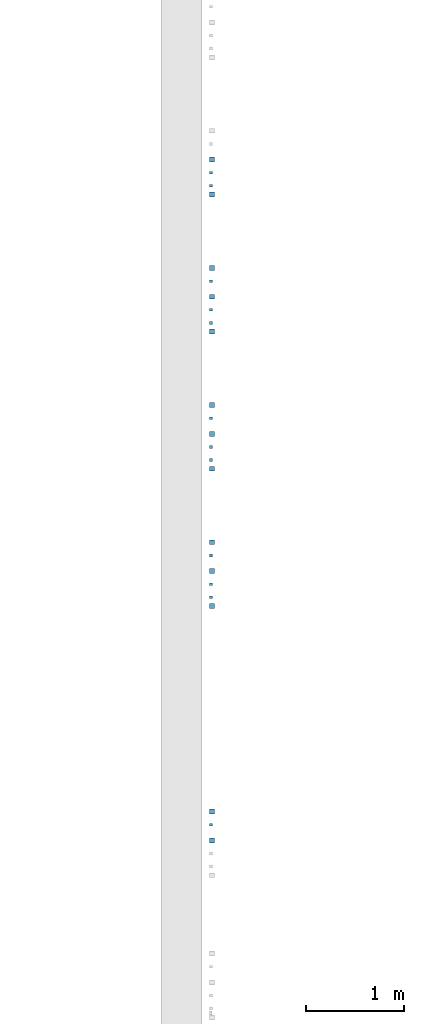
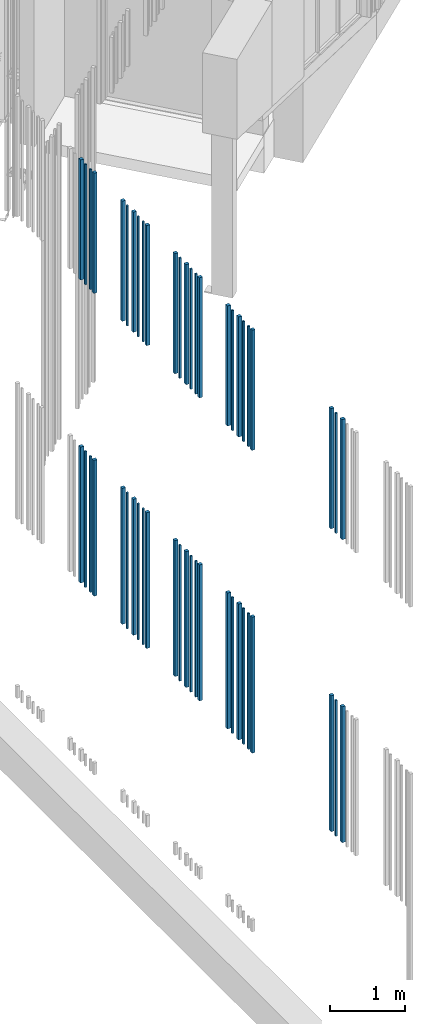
# One storey, part 24 of 124: 50 walls.
"""IFC2X3 building model written with IfcOpenShell, lengths in millimetres."""

from ifc_helpers import new_model, entity, si_unit, converted_unit, derived_unit, money_unit, direction, frame, origin_with_axes, place, context, subcontext, project, spatial, faceted_brep, material, type_object, element, save


model = new_model("IFC2X3")

# Units and contexts
model_context = context("Model", 3, precision=1e-05, world=origin_with_axes(), true_north=direction((0.0, 1.0)))
body_context = subcontext(model_context, "Body", "Model", "MODEL_VIEW")
ifc_project = project(units=[si_unit("LENGTHUNIT", "METRE", prefix="MILLI"), si_unit("AREAUNIT", "SQUARE_METRE"), si_unit("VOLUMEUNIT", "CUBIC_METRE"), converted_unit("PLANEANGLEUNIT", "DEGREE", entity("IfcPlaneAngleMeasure", 0.0174532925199), si_unit("PLANEANGLEUNIT", "RADIAN"), dimensions=[0, 0, 0, 0, 0, 0, 0]), si_unit("SOLIDANGLEUNIT", "STERADIAN"), money_unit("EUR"), converted_unit("TIMEUNIT", "Year", entity("IfcTimeMeasure", 31556926.0), si_unit("TIMEUNIT", "SECOND"), dimensions=[0, 0, 1, 0, 0, 0, 0]), si_unit("MASSUNIT", "GRAM", prefix="KILO"), si_unit("THERMODYNAMICTEMPERATUREUNIT", "DEGREE_CELSIUS"), si_unit("LUMINOUSINTENSITYUNIT", "LUMEN"), si_unit("ENERGYUNIT", "JOULE", prefix="MEGA"), derived_unit("THERMALCONDUCTANCEUNIT", [(si_unit("POWERUNIT", "WATT"), 1), (si_unit("LENGTHUNIT", "METRE"), -1), (si_unit("THERMODYNAMICTEMPERATUREUNIT", "KELVIN"), -1)]), derived_unit("SPECIFICHEATCAPACITYUNIT", [(si_unit("ENERGYUNIT", "JOULE"), 1), (si_unit("MASSUNIT", "GRAM", prefix="KILO"), -1), (si_unit("THERMODYNAMICTEMPERATUREUNIT", "KELVIN"), -1)]), derived_unit("MASSDENSITYUNIT", [(si_unit("MASSUNIT", "GRAM", prefix="KILO"), 1), (si_unit("VOLUMEUNIT", "CUBIC_METRE"), -1)])], contexts=[model_context])

# Site, building, storey
site_placement = place(None, origin_with_axes())
site = spatial("IfcSite", under=ifc_project, at=site_placement, Name="Site", CompositionType="ELEMENT")
building_placement = place(site_placement, origin_with_axes())
building = spatial("IfcBuilding", under=site, at=building_placement, Name="Building", CompositionType="ELEMENT")
storey_placement = place(building_placement, frame((0.0, 0.0, -1615.0), z_axis=(0.0, 0.0, 1.0), x_axis=(1.0, 0.0, 0.0)))
storey = spatial("IfcBuildingStorey", under=building, at=storey_placement, Name="0  korrus", CompositionType="ELEMENT", Elevation=-1615.0)

# Walls
ifc_material = material(Name="Site specified")
wall_type = type_object("IfcWallType", Name="Puitfassaadi ribistik", PredefinedType="NOTDEFINED")
wall_1_placement = place(storey_placement, frame((139811.999995, 55924.8062666, 4615.0), z_axis=(0.0, 0.0, 1.0), x_axis=(5.16795808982e-08, -1.0, 0.0)))
element("IfcWall", 1, at=wall_1_placement, inside=storey, type_object=wall_type, material=ifc_material, Name="Site specified", context=body_context, shape_type="Brep", body=[
    faceted_brep([(25.0, 25.0, 2206.0), (25.0, 25.0, 0.0), (-25.0, 25.0, 0.0), (-25.0, 25.0, 2206.0), (25.0, -25.0, 2206.0), (25.0, -25.0, 0.0), (-25.0, -25.0, 0.0), (-25.0, -25.0, 2206.0)], [[[0, 1, 2, 3]], [[4, 5, 1, 0]], [[2, 1, 5, 6]], [[3, 2, 6, 7]], [[4, 0, 3, 7]], [[7, 6, 5, 4]]]),
])
wall_2_placement = place(storey_placement, frame((139801.000002, 55789.8037755, 4615.0), z_axis=(0.0, 0.0, 1.0), x_axis=(5.16795808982e-08, -1.0, 0.0)))
element("IfcWall", 2, at=wall_2_placement, inside=storey, type_object=wall_type, material=ifc_material, Name="Site specified", context=body_context, shape_type="Brep", body=[
    faceted_brep([(14.0, 14.0, 2206.0), (14.0, 14.0, 0.0), (-14.0, 14.0, 0.0), (-14.0, 14.0, 2206.0), (14.0, -14.0, 2206.0), (14.0, -14.0, 0.0), (-14.0, -14.0, 0.0), (-14.0, -14.0, 2206.0)], [[[0, 1, 2, 3]], [[4, 5, 1, 0]], [[2, 1, 5, 6]], [[3, 2, 6, 7]], [[4, 0, 3, 7]], [[7, 6, 5, 4]]]),
])
wall_3_placement = place(storey_placement, frame((139812.000011, 55630.8062688, 4615.0), z_axis=(0.0, 0.0, 1.0), x_axis=(5.16795808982e-08, -1.0, 0.0)))
element("IfcWall", 3, at=wall_3_placement, inside=storey, type_object=wall_type, material=ifc_material, Name="Site specified", context=body_context, shape_type="Brep", body=[
    faceted_brep([(25.0, 25.0, 2206.0), (25.0, 25.0, 0.0), (-25.0, 25.0, 0.0), (-25.0, 25.0, 2206.0), (25.0, -25.0, 2206.0), (25.0, -25.0, 0.0), (-25.0, -25.0, 0.0), (-25.0, -25.0, 2206.0)], [[[0, 1, 2, 3]], [[4, 5, 1, 0]], [[2, 1, 5, 6]], [[3, 2, 6, 7]], [[4, 0, 3, 7]], [[7, 6, 5, 4]]]),
])
wall_4_placement = place(storey_placement, frame((139811.999995, 55924.8062666, 9530.0), z_axis=(0.0, 0.0, 1.0), x_axis=(5.16795808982e-08, -1.0, 0.0)))
element("IfcWall", 4, at=wall_4_placement, inside=storey, type_object=wall_type, material=ifc_material, Name="Site specified", context=body_context, shape_type="Brep", body=[
    faceted_brep([(25.0, 25.0, 1950.0), (25.0, 25.0, 0.0), (-25.0, 25.0, 0.0), (-25.0, 25.0, 1950.0), (25.0, -25.0, 1950.0), (25.0, -25.0, 0.0), (-25.0, -25.0, 0.0), (-25.0, -25.0, 1950.0)], [[[0, 1, 2, 3]], [[4, 5, 1, 0]], [[2, 1, 5, 6]], [[3, 2, 6, 7]], [[4, 0, 3, 7]], [[7, 6, 5, 4]]]),
])
for number, where, z_axis, x_axis, name in (
    (5, (139801.000002, 55789.8037755, 9530.0), (0.0, 0.0, 1.0), (5.16795808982e-08, -1.0, 0.0), "Site specified"),
    (6, (139801.000024, 59513.9793426, 9530.0), (0.0, 0.0, 1.0), (5.16795808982e-08, -1.0, 0.0), "Site specified"),
):
    element("IfcWall", number, at=place(storey_placement, frame(where, z_axis=z_axis, x_axis=x_axis)), inside=storey, type_object=wall_type, material=ifc_material, Name=name, context=body_context, shape_type="Brep", body=[
        faceted_brep([(14.0, 14.0, 1950.0), (14.0, 14.0, 0.0), (-14.0, 14.0, 0.0), (-14.0, 14.0, 1950.0), (14.0, -14.0, 1950.0), (14.0, -14.0, 0.0), (-14.0, -14.0, 0.0), (-14.0, -14.0, 1950.0)], [[[0, 1, 2, 3]], [[4, 5, 1, 0]], [[2, 1, 5, 6]], [[3, 2, 6, 7]], [[4, 0, 3, 7]], [[7, 6, 5, 4]]]),
    ])
wall_5_placement = place(storey_placement, frame((139812.000011, 55630.8062688, 9530.0), z_axis=(0.0, 0.0, 1.0), x_axis=(5.16795808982e-08, -1.0, 0.0)))
element("IfcWall", 7, at=wall_5_placement, inside=storey, type_object=wall_type, material=ifc_material, Name="Site specified", context=body_context, shape_type="Brep", body=[
    faceted_brep([(25.0, 25.0, 1950.0), (25.0, 25.0, 0.0), (-25.0, 25.0, 0.0), (-25.0, 25.0, 1950.0), (25.0, -25.0, 1950.0), (25.0, -25.0, 0.0), (-25.0, -25.0, 0.0), (-25.0, -25.0, 1950.0)], [[[0, 1, 2, 3]], [[4, 5, 1, 0]], [[2, 1, 5, 6]], [[3, 2, 6, 7]], [[4, 0, 3, 7]], [[7, 6, 5, 4]]]),
])
wall_6_placement = place(storey_placement, frame((139811.999995, 58674.9818039, 4615.0), z_axis=(0.0, 0.0, 1.0), x_axis=(5.16795808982e-08, -1.0, 0.0)))
element("IfcWall", 8, at=wall_6_placement, inside=storey, type_object=wall_type, material=ifc_material, Name="Site specified", context=body_context, shape_type="Brep", body=[
    faceted_brep([(25.0, 25.0, 2206.0), (25.0, 25.0, 0.0), (-25.0, 25.0, 0.0), (-25.0, 25.0, 2206.0), (25.0, -25.0, 2206.0), (25.0, -25.0, 0.0), (-25.0, -25.0, 0.0), (-25.0, -25.0, 2206.0)], [[[0, 1, 2, 3]], [[4, 5, 1, 0]], [[2, 1, 5, 6]], [[3, 2, 6, 7]], [[4, 0, 3, 7]], [[7, 6, 5, 4]]]),
])
for number, where, z_axis, x_axis, name in (
    (9, (139801.000002, 58539.9793129, 4615.0), (0.0, 0.0, 1.0), (5.16795808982e-08, -1.0, 0.0), "Site specified"),
    (10, (139801.000024, 58113.9793426, 4615.0), (0.0, 0.0, 1.0), (5.16795808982e-08, -1.0, 0.0), "Site specified"),
    (11, (139801.000017, 58246.9793417, 4615.0), (0.0, 0.0, 1.0), (5.16795808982e-08, -1.0, 0.0), "Site specified"),
):
    element("IfcWall", number, at=place(storey_placement, frame(where, z_axis=z_axis, x_axis=x_axis)), inside=storey, type_object=wall_type, material=ifc_material, Name=name, context=body_context, shape_type="Brep", body=[
        faceted_brep([(14.0, 14.0, 2206.0), (14.0, 14.0, 0.0), (-14.0, 14.0, 0.0), (-14.0, 14.0, 2206.0), (14.0, -14.0, 2206.0), (14.0, -14.0, 0.0), (-14.0, -14.0, 0.0), (-14.0, -14.0, 2206.0)], [[[0, 1, 2, 3]], [[4, 5, 1, 0]], [[2, 1, 5, 6]], [[3, 2, 6, 7]], [[4, 0, 3, 7]], [[7, 6, 5, 4]]]),
    ])
for number, where, z_axis, x_axis, name in (
    (12, (139812.000029, 58024.9761727, 4615.0), (0.0, 0.0, 1.0), (5.16795808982e-08, -1.0, 0.0), "Site specified"),
    (13, (139812.00001, 58380.9818061, 4615.0), (0.0, 0.0, 1.0), (5.16795808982e-08, -1.0, 0.0), "Site specified"),
):
    element("IfcWall", number, at=place(storey_placement, frame(where, z_axis=z_axis, x_axis=x_axis)), inside=storey, type_object=wall_type, material=ifc_material, Name=name, context=body_context, shape_type="Brep", body=[
        faceted_brep([(25.0, 25.0, 2206.0), (25.0, 25.0, 0.0), (-25.0, 25.0, 0.0), (-25.0, 25.0, 2206.0), (25.0, -25.0, 2206.0), (25.0, -25.0, 0.0), (-25.0, -25.0, 0.0), (-25.0, -25.0, 2206.0)], [[[0, 1, 2, 3]], [[4, 5, 1, 0]], [[2, 1, 5, 6]], [[3, 2, 6, 7]], [[4, 0, 3, 7]], [[7, 6, 5, 4]]]),
    ])
wall_7_placement = place(storey_placement, frame((139811.999995, 58674.9818039, 9530.0), z_axis=(0.0, 0.0, 1.0), x_axis=(5.16795808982e-08, -1.0, 0.0)))
element("IfcWall", 14, at=wall_7_placement, inside=storey, type_object=wall_type, material=ifc_material, Name="Site specified", context=body_context, shape_type="Brep", body=[
    faceted_brep([(25.0, 25.0, 1950.0), (25.0, 25.0, 0.0), (-25.0, 25.0, 0.0), (-25.0, 25.0, 1950.0), (25.0, -25.0, 1950.0), (25.0, -25.0, 0.0), (-25.0, -25.0, 0.0), (-25.0, -25.0, 1950.0)], [[[0, 1, 2, 3]], [[4, 5, 1, 0]], [[2, 1, 5, 6]], [[3, 2, 6, 7]], [[4, 0, 3, 7]], [[7, 6, 5, 4]]]),
])
for number, where, z_axis, x_axis, name in (
    (15, (139801.000002, 58539.9793129, 9530.0), (0.0, 0.0, 1.0), (5.16795808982e-08, -1.0, 0.0), "Site specified"),
    (16, (139801.000024, 58113.9793426, 9530.0), (0.0, 0.0, 1.0), (5.16795808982e-08, -1.0, 0.0), "Site specified"),
    (17, (139801.000017, 58246.9793417, 9530.0), (0.0, 0.0, 1.0), (5.16795808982e-08, -1.0, 0.0), "Site specified"),
):
    element("IfcWall", number, at=place(storey_placement, frame(where, z_axis=z_axis, x_axis=x_axis)), inside=storey, type_object=wall_type, material=ifc_material, Name=name, context=body_context, shape_type="Brep", body=[
        faceted_brep([(14.0, 14.0, 1950.0), (14.0, 14.0, 0.0), (-14.0, 14.0, 0.0), (-14.0, 14.0, 1950.0), (14.0, -14.0, 1950.0), (14.0, -14.0, 0.0), (-14.0, -14.0, 0.0), (-14.0, -14.0, 1950.0)], [[[0, 1, 2, 3]], [[4, 5, 1, 0]], [[2, 1, 5, 6]], [[3, 2, 6, 7]], [[4, 0, 3, 7]], [[7, 6, 5, 4]]]),
    ])
for number, where, z_axis, x_axis, name in (
    (18, (139812.000029, 58024.9761727, 9530.0), (0.0, 0.0, 1.0), (5.16795808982e-08, -1.0, 0.0), "Site specified"),
    (19, (139812.00001, 58380.9818061, 9530.0), (0.0, 0.0, 1.0), (5.16795808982e-08, -1.0, 0.0), "Site specified"),
):
    element("IfcWall", number, at=place(storey_placement, frame(where, z_axis=z_axis, x_axis=x_axis)), inside=storey, type_object=wall_type, material=ifc_material, Name=name, context=body_context, shape_type="Brep", body=[
        faceted_brep([(25.0, 25.0, 1950.0), (25.0, 25.0, 0.0), (-25.0, 25.0, 0.0), (-25.0, 25.0, 1950.0), (25.0, -25.0, 1950.0), (25.0, -25.0, 0.0), (-25.0, -25.0, 0.0), (-25.0, -25.0, 1950.0)], [[[0, 1, 2, 3]], [[4, 5, 1, 0]], [[2, 1, 5, 6]], [[3, 2, 6, 7]], [[4, 0, 3, 7]], [[7, 6, 5, 4]]]),
    ])
wall_8_placement = place(storey_placement, frame((139811.999995, 60074.9818039, 4615.0), z_axis=(0.0, 0.0, 1.0), x_axis=(5.16795808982e-08, -1.0, 0.0)))
element("IfcWall", 20, at=wall_8_placement, inside=storey, type_object=wall_type, material=ifc_material, Name="Site specified", context=body_context, shape_type="Brep", body=[
    faceted_brep([(25.0, 25.0, 2206.0), (25.0, 25.0, 0.0), (-25.0, 25.0, 0.0), (-25.0, 25.0, 2206.0), (25.0, -25.0, 2206.0), (25.0, -25.0, 0.0), (-25.0, -25.0, 0.0), (-25.0, -25.0, 2206.0)], [[[0, 1, 2, 3]], [[4, 5, 1, 0]], [[2, 1, 5, 6]], [[3, 2, 6, 7]], [[4, 0, 3, 7]], [[7, 6, 5, 4]]]),
])
for number, where, z_axis, x_axis, name in (
    (21, (139801.000002, 59939.9793129, 4615.0), (0.0, 0.0, 1.0), (5.16795808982e-08, -1.0, 0.0), "Site specified"),
    (22, (139801.000024, 59513.9793426, 4615.0), (0.0, 0.0, 1.0), (5.16795808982e-08, -1.0, 0.0), "Site specified"),
    (23, (139801.000017, 59646.9793417, 4615.0), (0.0, 0.0, 1.0), (5.16795808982e-08, -1.0, 0.0), "Site specified"),
):
    element("IfcWall", number, at=place(storey_placement, frame(where, z_axis=z_axis, x_axis=x_axis)), inside=storey, type_object=wall_type, material=ifc_material, Name=name, context=body_context, shape_type="Brep", body=[
        faceted_brep([(14.0, 14.0, 2206.0), (14.0, 14.0, 0.0), (-14.0, 14.0, 0.0), (-14.0, 14.0, 2206.0), (14.0, -14.0, 2206.0), (14.0, -14.0, 0.0), (-14.0, -14.0, 0.0), (-14.0, -14.0, 2206.0)], [[[0, 1, 2, 3]], [[4, 5, 1, 0]], [[2, 1, 5, 6]], [[3, 2, 6, 7]], [[4, 0, 3, 7]], [[7, 6, 5, 4]]]),
    ])
for number, where, z_axis, x_axis, name in (
    (24, (139812.000029, 59424.9761727, 4615.0), (0.0, 0.0, 1.0), (5.16795808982e-08, -1.0, 0.0), "Site specified"),
    (25, (139812.00001, 59780.9818061, 4615.0), (0.0, 0.0, 1.0), (5.16795808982e-08, -1.0, 0.0), "Site specified"),
):
    element("IfcWall", number, at=place(storey_placement, frame(where, z_axis=z_axis, x_axis=x_axis)), inside=storey, type_object=wall_type, material=ifc_material, Name=name, context=body_context, shape_type="Brep", body=[
        faceted_brep([(25.0, 25.0, 2206.0), (25.0, 25.0, 0.0), (-25.0, 25.0, 0.0), (-25.0, 25.0, 2206.0), (25.0, -25.0, 2206.0), (25.0, -25.0, 0.0), (-25.0, -25.0, 0.0), (-25.0, -25.0, 2206.0)], [[[0, 1, 2, 3]], [[4, 5, 1, 0]], [[2, 1, 5, 6]], [[3, 2, 6, 7]], [[4, 0, 3, 7]], [[7, 6, 5, 4]]]),
    ])
wall_9_placement = place(storey_placement, frame((139811.999995, 60074.9818039, 9530.0), z_axis=(0.0, 0.0, 1.0), x_axis=(5.16795808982e-08, -1.0, 0.0)))
element("IfcWall", 26, at=wall_9_placement, inside=storey, type_object=wall_type, material=ifc_material, Name="Site specified", context=body_context, shape_type="Brep", body=[
    faceted_brep([(25.0, 25.0, 1950.0), (25.0, 25.0, 0.0), (-25.0, 25.0, 0.0), (-25.0, 25.0, 1950.0), (25.0, -25.0, 1950.0), (25.0, -25.0, 0.0), (-25.0, -25.0, 0.0), (-25.0, -25.0, 1950.0)], [[[0, 1, 2, 3]], [[4, 5, 1, 0]], [[2, 1, 5, 6]], [[3, 2, 6, 7]], [[4, 0, 3, 7]], [[7, 6, 5, 4]]]),
])
for number, where, z_axis, x_axis, name in (
    (27, (139801.000002, 59939.9793129, 9530.0), (0.0, 0.0, 1.0), (5.16795808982e-08, -1.0, 0.0), "Site specified"),
    (28, (139801.000017, 59646.9793417, 9530.0), (0.0, 0.0, 1.0), (5.16795808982e-08, -1.0, 0.0), "Site specified"),
):
    element("IfcWall", number, at=place(storey_placement, frame(where, z_axis=z_axis, x_axis=x_axis)), inside=storey, type_object=wall_type, material=ifc_material, Name=name, context=body_context, shape_type="Brep", body=[
        faceted_brep([(14.0, 14.0, 1950.0), (14.0, 14.0, 0.0), (-14.0, 14.0, 0.0), (-14.0, 14.0, 1950.0), (14.0, -14.0, 1950.0), (14.0, -14.0, 0.0), (-14.0, -14.0, 0.0), (-14.0, -14.0, 1950.0)], [[[0, 1, 2, 3]], [[4, 5, 1, 0]], [[2, 1, 5, 6]], [[3, 2, 6, 7]], [[4, 0, 3, 7]], [[7, 6, 5, 4]]]),
    ])
for number, where, z_axis, x_axis, name in (
    (29, (139812.000029, 59424.9761727, 9530.0), (0.0, 0.0, 1.0), (5.16795808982e-08, -1.0, 0.0), "Site specified"),
    (30, (139812.00001, 59780.9818061, 9530.0), (0.0, 0.0, 1.0), (5.16795808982e-08, -1.0, 0.0), "Site specified"),
):
    element("IfcWall", number, at=place(storey_placement, frame(where, z_axis=z_axis, x_axis=x_axis)), inside=storey, type_object=wall_type, material=ifc_material, Name=name, context=body_context, shape_type="Brep", body=[
        faceted_brep([(25.0, 25.0, 1950.0), (25.0, 25.0, 0.0), (-25.0, 25.0, 0.0), (-25.0, 25.0, 1950.0), (25.0, -25.0, 1950.0), (25.0, -25.0, 0.0), (-25.0, -25.0, 0.0), (-25.0, -25.0, 1950.0)], [[[0, 1, 2, 3]], [[4, 5, 1, 0]], [[2, 1, 5, 6]], [[3, 2, 6, 7]], [[4, 0, 3, 7]], [[7, 6, 5, 4]]]),
    ])
wall_10_placement = place(storey_placement, frame((139812.00003, 61475.0000119, 4615.0), z_axis=(0.0, 0.0, 1.0), x_axis=(5.16795808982e-08, -1.0, 0.0)))
element("IfcWall", 31, at=wall_10_placement, inside=storey, type_object=wall_type, material=ifc_material, Name="Site specified", context=body_context, shape_type="Brep", body=[
    faceted_brep([(25.0, 25.0, 2206.0), (25.0, 25.0, 0.0), (-25.0, 25.0, 0.0), (-25.0, 25.0, 2206.0), (25.0, -25.0, 2206.0), (25.0, -25.0, 0.0), (-25.0, -25.0, 0.0), (-25.0, -25.0, 2206.0)], [[[0, 1, 2, 3]], [[4, 5, 1, 0]], [[2, 1, 5, 6]], [[3, 2, 6, 7]], [[4, 0, 3, 7]], [[7, 6, 5, 4]]]),
])
for number, where, z_axis, x_axis, name in (
    (32, (139801.000037, 61339.9975209, 4615.0), (0.0, 0.0, 1.0), (5.16795808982e-08, -1.0, 0.0), "Site specified"),
    (33, (139801.000059, 60913.9975506, 4615.0), (0.0, 0.0, 1.0), (5.16795808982e-08, -1.0, 0.0), "Site specified"),
    (34, (139801.000052, 61046.9975498, 4615.0), (0.0, 0.0, 1.0), (5.16795808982e-08, -1.0, 0.0), "Site specified"),
):
    element("IfcWall", number, at=place(storey_placement, frame(where, z_axis=z_axis, x_axis=x_axis)), inside=storey, type_object=wall_type, material=ifc_material, Name=name, context=body_context, shape_type="Brep", body=[
        faceted_brep([(14.0, 14.0, 2206.0), (14.0, 14.0, 0.0), (-14.0, 14.0, 0.0), (-14.0, 14.0, 2206.0), (14.0, -14.0, 2206.0), (14.0, -14.0, 0.0), (-14.0, -14.0, 0.0), (-14.0, -14.0, 2206.0)], [[[0, 1, 2, 3]], [[4, 5, 1, 0]], [[2, 1, 5, 6]], [[3, 2, 6, 7]], [[4, 0, 3, 7]], [[7, 6, 5, 4]]]),
    ])
for number, where, z_axis, x_axis, name in (
    (35, (139812.000064, 60824.9943808, 4615.0), (0.0, 0.0, 1.0), (5.16795808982e-08, -1.0, 0.0), "Site specified"),
    (36, (139812.000046, 61181.0000141, 4615.0), (0.0, 0.0, 1.0), (5.16795808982e-08, -1.0, 0.0), "Site specified"),
):
    element("IfcWall", number, at=place(storey_placement, frame(where, z_axis=z_axis, x_axis=x_axis)), inside=storey, type_object=wall_type, material=ifc_material, Name=name, context=body_context, shape_type="Brep", body=[
        faceted_brep([(25.0, 25.0, 2206.0), (25.0, 25.0, 0.0), (-25.0, 25.0, 0.0), (-25.0, 25.0, 2206.0), (25.0, -25.0, 2206.0), (25.0, -25.0, 0.0), (-25.0, -25.0, 0.0), (-25.0, -25.0, 2206.0)], [[[0, 1, 2, 3]], [[4, 5, 1, 0]], [[2, 1, 5, 6]], [[3, 2, 6, 7]], [[4, 0, 3, 7]], [[7, 6, 5, 4]]]),
    ])
wall_11_placement = place(storey_placement, frame((139812.00003, 61475.0000119, 9530.0), z_axis=(0.0, 0.0, 1.0), x_axis=(5.16795808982e-08, -1.0, 0.0)))
element("IfcWall", 37, at=wall_11_placement, inside=storey, type_object=wall_type, material=ifc_material, Name="Site specified", context=body_context, shape_type="Brep", body=[
    faceted_brep([(25.0, 25.0, 1950.0), (25.0, 25.0, 0.0), (-25.0, 25.0, 0.0), (-25.0, 25.0, 1950.0), (25.0, -25.0, 1950.0), (25.0, -25.0, 0.0), (-25.0, -25.0, 0.0), (-25.0, -25.0, 1950.0)], [[[0, 1, 2, 3]], [[4, 5, 1, 0]], [[2, 1, 5, 6]], [[3, 2, 6, 7]], [[4, 0, 3, 7]], [[7, 6, 5, 4]]]),
])
for number, where, z_axis, x_axis, name in (
    (38, (139801.000037, 61339.9975209, 9530.0), (0.0, 0.0, 1.0), (5.16795808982e-08, -1.0, 0.0), "Site specified"),
    (39, (139801.000059, 60913.9975506, 9530.0), (0.0, 0.0, 1.0), (5.16795808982e-08, -1.0, 0.0), "Site specified"),
    (40, (139801.000052, 61046.9975498, 9530.0), (0.0, 0.0, 1.0), (5.16795808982e-08, -1.0, 0.0), "Site specified"),
):
    element("IfcWall", number, at=place(storey_placement, frame(where, z_axis=z_axis, x_axis=x_axis)), inside=storey, type_object=wall_type, material=ifc_material, Name=name, context=body_context, shape_type="Brep", body=[
        faceted_brep([(14.0, 14.0, 1950.0), (14.0, 14.0, 0.0), (-14.0, 14.0, 0.0), (-14.0, 14.0, 1950.0), (14.0, -14.0, 1950.0), (14.0, -14.0, 0.0), (-14.0, -14.0, 0.0), (-14.0, -14.0, 1950.0)], [[[0, 1, 2, 3]], [[4, 5, 1, 0]], [[2, 1, 5, 6]], [[3, 2, 6, 7]], [[4, 0, 3, 7]], [[7, 6, 5, 4]]]),
    ])
for number, where, z_axis, x_axis, name in (
    (41, (139812.000064, 60824.9943808, 9530.0), (0.0, 0.0, 1.0), (5.16795808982e-08, -1.0, 0.0), "Site specified"),
    (42, (139812.000046, 61181.0000141, 9530.0), (0.0, 0.0, 1.0), (5.16795808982e-08, -1.0, 0.0), "Site specified"),
):
    element("IfcWall", number, at=place(storey_placement, frame(where, z_axis=z_axis, x_axis=x_axis)), inside=storey, type_object=wall_type, material=ifc_material, Name=name, context=body_context, shape_type="Brep", body=[
        faceted_brep([(25.0, 25.0, 1950.0), (25.0, 25.0, 0.0), (-25.0, 25.0, 0.0), (-25.0, 25.0, 1950.0), (25.0, -25.0, 1950.0), (25.0, -25.0, 0.0), (-25.0, -25.0, 0.0), (-25.0, -25.0, 1950.0)], [[[0, 1, 2, 3]], [[4, 5, 1, 0]], [[2, 1, 5, 6]], [[3, 2, 6, 7]], [[4, 0, 3, 7]], [[7, 6, 5, 4]]]),
    ])
for number, where, z_axis, x_axis, name in (
    (43, (139801.000024, 62313.9793426, 4615.0), (0.0, 0.0, 1.0), (5.16795808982e-08, -1.0, 0.0), "Site specified"),
    (44, (139801.000017, 62446.9793417, 4615.0), (0.0, 0.0, 1.0), (5.16795808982e-08, -1.0, 0.0), "Site specified"),
):
    element("IfcWall", number, at=place(storey_placement, frame(where, z_axis=z_axis, x_axis=x_axis)), inside=storey, type_object=wall_type, material=ifc_material, Name=name, context=body_context, shape_type="Brep", body=[
        faceted_brep([(14.0, 14.0, 2206.0), (14.0, 14.0, 0.0), (-14.0, 14.0, 0.0), (-14.0, 14.0, 2206.0), (14.0, -14.0, 2206.0), (14.0, -14.0, 0.0), (-14.0, -14.0, 0.0), (-14.0, -14.0, 2206.0)], [[[0, 1, 2, 3]], [[4, 5, 1, 0]], [[2, 1, 5, 6]], [[3, 2, 6, 7]], [[4, 0, 3, 7]], [[7, 6, 5, 4]]]),
    ])
for number, where, z_axis, x_axis, name in (
    (45, (139812.000028, 62224.9761727, 4615.0), (0.0, 0.0, 1.0), (5.16795808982e-08, -1.0, 0.0), "Site specified"),
    (46, (139812.00001, 62580.9818061, 4615.0), (0.0, 0.0, 1.0), (5.16795808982e-08, -1.0, 0.0), "Site specified"),
):
    element("IfcWall", number, at=place(storey_placement, frame(where, z_axis=z_axis, x_axis=x_axis)), inside=storey, type_object=wall_type, material=ifc_material, Name=name, context=body_context, shape_type="Brep", body=[
        faceted_brep([(25.0, 25.0, 2206.0), (25.0, 25.0, 0.0), (-25.0, 25.0, 0.0), (-25.0, 25.0, 2206.0), (25.0, -25.0, 2206.0), (25.0, -25.0, 0.0), (-25.0, -25.0, 0.0), (-25.0, -25.0, 2206.0)], [[[0, 1, 2, 3]], [[4, 5, 1, 0]], [[2, 1, 5, 6]], [[3, 2, 6, 7]], [[4, 0, 3, 7]], [[7, 6, 5, 4]]]),
    ])
for number, where, z_axis, x_axis, name in (
    (47, (139801.000024, 62313.9793426, 9530.0), (0.0, 0.0, 1.0), (5.16795808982e-08, -1.0, 0.0), "Site specified"),
    (48, (139801.000017, 62446.9793417, 9530.0), (0.0, 0.0, 1.0), (5.16795808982e-08, -1.0, 0.0), "Site specified"),
):
    element("IfcWall", number, at=place(storey_placement, frame(where, z_axis=z_axis, x_axis=x_axis)), inside=storey, type_object=wall_type, material=ifc_material, Name=name, context=body_context, shape_type="Brep", body=[
        faceted_brep([(14.0, 14.0, 1950.0), (14.0, 14.0, 0.0), (-14.0, 14.0, 0.0), (-14.0, 14.0, 1950.0), (14.0, -14.0, 1950.0), (14.0, -14.0, 0.0), (-14.0, -14.0, 0.0), (-14.0, -14.0, 1950.0)], [[[0, 1, 2, 3]], [[4, 5, 1, 0]], [[2, 1, 5, 6]], [[3, 2, 6, 7]], [[4, 0, 3, 7]], [[7, 6, 5, 4]]]),
    ])
for number, where, z_axis, x_axis, name in (
    (49, (139812.000028, 62224.9761727, 9530.0), (0.0, 0.0, 1.0), (5.16795808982e-08, -1.0, 0.0), "Site specified"),
    (50, (139812.00001, 62580.9818061, 9530.0), (0.0, 0.0, 1.0), (5.16795808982e-08, -1.0, 0.0), "Site specified"),
):
    element("IfcWall", number, at=place(storey_placement, frame(where, z_axis=z_axis, x_axis=x_axis)), inside=storey, type_object=wall_type, material=ifc_material, Name=name, context=body_context, shape_type="Brep", body=[
        faceted_brep([(25.0, 25.0, 1950.0), (25.0, 25.0, 0.0), (-25.0, 25.0, 0.0), (-25.0, 25.0, 1950.0), (25.0, -25.0, 1950.0), (25.0, -25.0, 0.0), (-25.0, -25.0, 0.0), (-25.0, -25.0, 1950.0)], [[[0, 1, 2, 3]], [[4, 5, 1, 0]], [[2, 1, 5, 6]], [[3, 2, 6, 7]], [[4, 0, 3, 7]], [[7, 6, 5, 4]]]),
    ])

save(model, "model.ifc")
